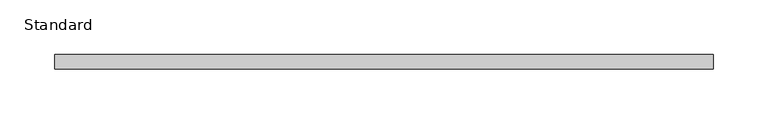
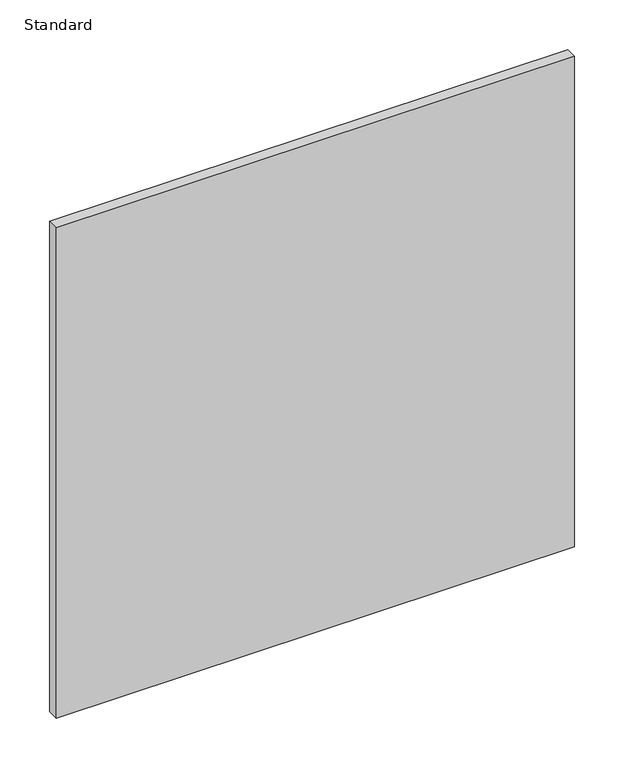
"""IFC4 building model written with IfcOpenShell, lengths in millimetres: furniture geometry, X_Partition-Compact Laminate-Duracube-Rectangular : Standard."""

from ifc_helpers import new_model, si_unit, origin, origin_with_axes, place, context, project, spatial, polyline, outline, extrude, source, transform, mapped, element, save


def standard_b1f0228c(model_context):
    return source(origin(), model_context, "Body", "SweptSolid", [
        extrude(outline(polyline([(344.7003264, 0.0), (344.7003264, -13.0), (-255.2996736, -13.0), (-255.2996736, 0.0), (344.7003264, 0.0)])), origin_with_axes(), (0.0, 0.0, 1.0), 600.0),
    ])


if __name__ == "__main__":
    model = new_model("IFC4")
    model_context = context("Model", 3, world=origin())
    ifc_project = project(units=[si_unit("LENGTHUNIT", "METRE", prefix="MILLI")], contexts=[model_context])
    site = spatial("IfcSite", under=ifc_project)
    building = spatial("IfcBuilding", under=site)
    placement = place(None, origin())
    standard_shape = standard_b1f0228c(model_context)
    element("IfcFurniture", 1, ObjectType="X_Partition-Compact Laminate-Duracube-Rectangular : Standard", at=placement, inside=building, context=model_context, shape_type="MappedRepresentation", body=[
        mapped(standard_shape, transform((0.0, 0.0, 0.0), x_axis=(1.0, 0.0, 0.0), y_axis=(0.0, 1.0, 0.0), z_axis=(0.0, 0.0, 1.0))),
    ])
    save(model, "model.ifc")
